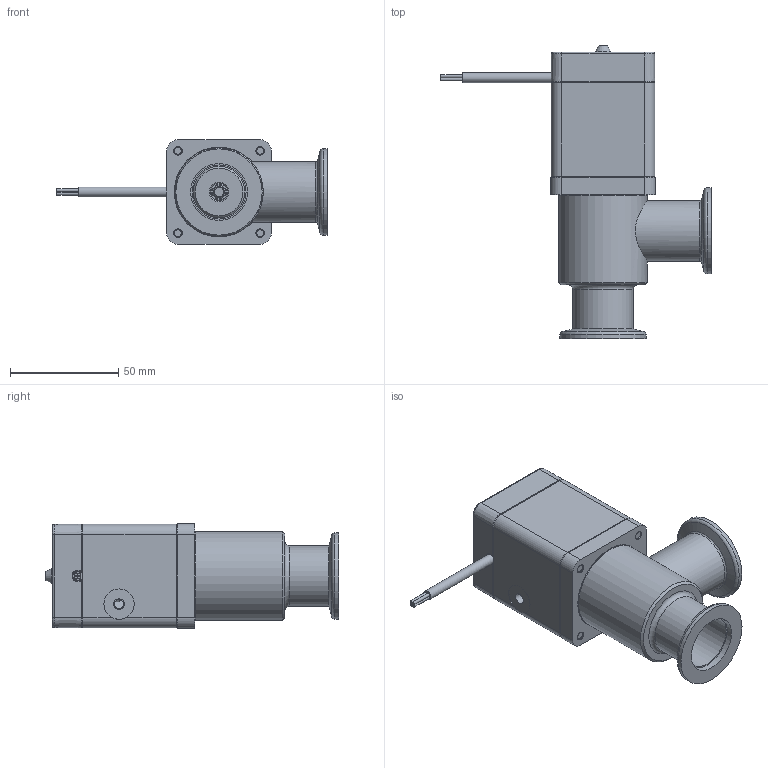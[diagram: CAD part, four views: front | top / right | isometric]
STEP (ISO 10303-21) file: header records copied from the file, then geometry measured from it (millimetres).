
FILE_DESCRIPTION(/* description */ (''),/* implementation_level */ '2;1');
FILE_NAME(/* name */ '1177565024_203.stp',/* time_stamp */ '2013-07-17T10:31:04+02:00',/* author */ (''),/* organization */ (''),/* preprocessor_version */ 'ST-DEVELOPER v11',/* originating_system */ 'SIEMENS PLM Software NX 7.5',/* authorisation */ '');
FILE_SCHEMA (('AP203_CONFIGURATION_CONTROLLED_3D_DESIGN_OF_MECHANICAL_PARTS_AND_ASSEMBLIES_MIM_LF'));
Length unit declared in the file: millimetre
Products named in the file (13): 245690.2; 245689.5; 245688.7; 239888_6.1; 233359; 236208.2; 236204_1.1; 239359.4; 245188.1; 243878.2; 245687.12; 233248_NX-ARRAGMNTGerades Kabel; 701811
Assembly tree (17 placements, depth 3):
  701811
    243878.2
    245188.1  x4
    239359.4
    233248_NX-ARRAGMNTGerades Kabel
      236204_1.1  x2
      236208.2  x2
      233359
      239888_6.1
    245687.12
      245688.7
      245689.5
      245690.2
Bounding box: 125 x 135.91 x 48.4 mm (x, y, z)
Volume: 113002.1 mm3; surface area: 74896.9 mm2
Topology: 23 solids, 23 shells, 612 faces, 1465 edges, 953 vertices
Faces by surface type: plane 351, cylinder 153, cone 71, bspline 19, torus 16, sphere 2
Full cylindrical faces by diameter (mm): 1.4 x8, 2 x6, 2.2 x4, 2.5 x3, 2.95 x1, 3 x7, 3.26 x4, 3.3 x4, 4 x12, 4.2 x1, 4.4 x1, 4.5 x4, 4.6 x1, 4.7 x3, 5 x1, 5.1 x1, 5.6 x2, 6 x3, 7 x4, 7.4 x1, 7.975 x3, 8 x5, 8.012 x2, 9.25 x1, 11.5 x1, 14 x1, 24 x1, 25 x3, 26.3 x2, 28 x2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
Entity records: 16680 total; most frequent: CARTESIAN_POINT 3299, DIRECTION 2379, ORIENTED_EDGE 2112, EDGE_CURVE 1056, AXIS2_PLACEMENT_3D 879, VERTEX_POINT 776, EDGE_LOOP 748, LINE 621
